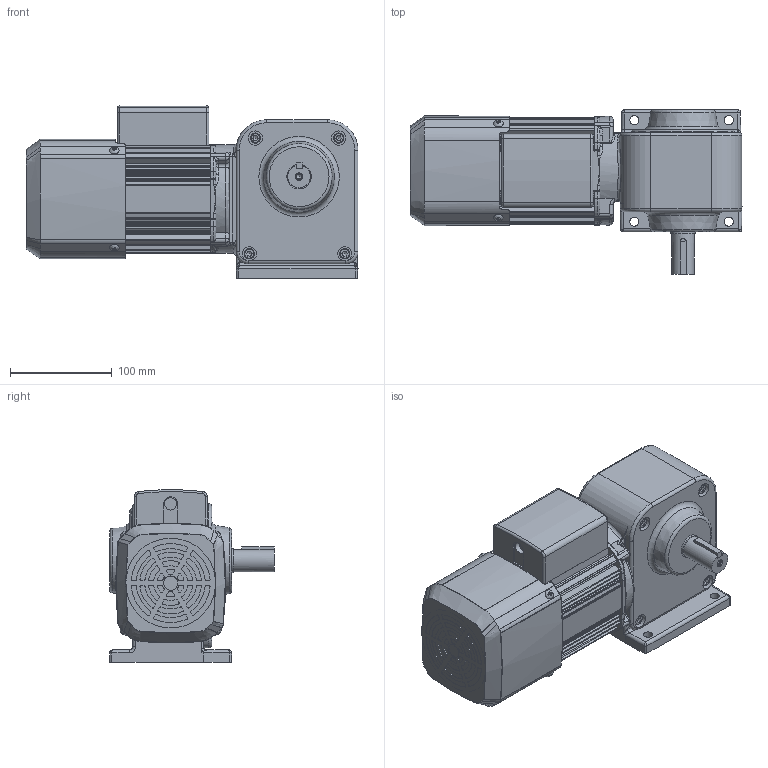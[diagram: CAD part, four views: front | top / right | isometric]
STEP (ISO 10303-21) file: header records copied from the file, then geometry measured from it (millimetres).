
FILE_DESCRIPTION( ( 'Unknown' ), '1' );
FILE_NAME( 'W:/gm/3D-WEB/GM-SHY/完成品/パーツ/完成品/三相/shybrr_02_5-60.stp', 'Unknown', ( 'Unknown' ), ( 'Unknown' ), 'PSStep 11.0', 'Unknown', ' ' );
FILE_SCHEMA( ( 'AUTOMOTIVE_DESIGN { 1 0 10303 214 1 1 1 1 }' ) );
Length unit declared in the file: millimetre
Products named in the file (2): P265320H10_ 衛偯枆參(0.1,0.2kW 63Fr)
Bounding box: 327.04 x 162 x 169.65 mm (x, y, z)
Volume: 2301179.2 mm3; surface area: 356742.4 mm2
Topology: 2 solids, 8 shells, 1176 faces, 3073 edges, 1973 vertices
Faces by surface type: cylinder 557, plane 444, torus 70, bspline 69, cone 22, sphere 8, offset 6
Full cylindrical faces by diameter (mm): 3.3 x4, 4 x4, 4.134 x8, 4.5 x8, 4.8 x4, 4.917 x1, 6 x8, 6.2 x1, 9 x4, 10 x4, 12 x2, 14 x5, 15 x1, 16 x1, 20 x1, 22 x1, 24 x2, 25 x1, 30.1 x1, 37.529 x1, 40 x3, 88.4 x1, 100 x1, 100.5 x2
Entity records: 59407 total; most frequent: CARTESIAN_POINT 21644, DIRECTION 5991, ORIENTED_EDGE 5828, EDGE_CURVE 2914, AXIS2_PLACEMENT_3D 2330, VERTEX_POINT 1943, EDGE_LOOP 1376, LINE 1331
